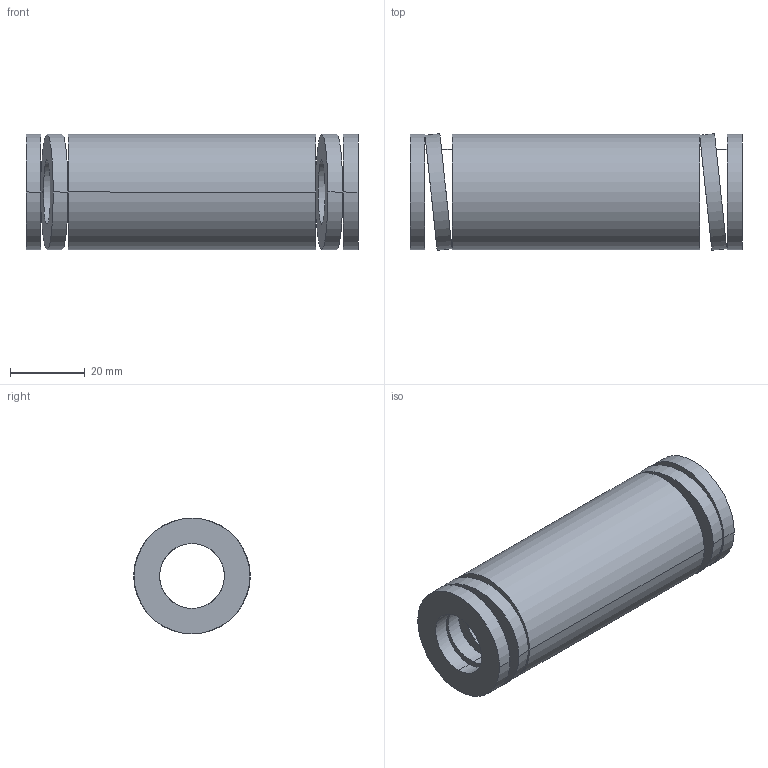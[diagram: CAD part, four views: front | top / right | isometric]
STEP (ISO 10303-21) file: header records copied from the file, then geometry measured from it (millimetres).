
FILE_DESCRIPTION(('CATIA V5 STEP Exchange'),'2;1');
FILE_NAME('C:\Users\Utente\Desktop\IO LAVORO\3D X SITO CF\X SITO\3D files 392B\392-B32-089.stp','2021-08-13T10:08:03+00:00',('none'),('none'),'CATIA Version 5 Release 20 GA (IN-10)','CATIA V5 STEP AP203','none');
FILE_SCHEMA(('CONFIG_CONTROL_DESIGN'));
Length unit declared in the file: millimetre
Products named in the file (1): 392-B32-089
Bounding box: 89 x 31.25 x 31 mm (x, y, z)
Volume: 42523.1 mm3; surface area: 17680.7 mm2
Topology: 1 solids, 1 shells, 38 faces, 92 edges, 64 vertices
Faces by surface type: cylinder 28, plane 10
Entity records: 1560 total; most frequent: CARTESIAN_POINT 667, ORIENTED_EDGE 184, DIRECTION 131, EDGE_CURVE 92, AXIS2_PLACEMENT_3D 66, VERTEX_POINT 64, EDGE_LOOP 56, ADVANCED_FACE 38
